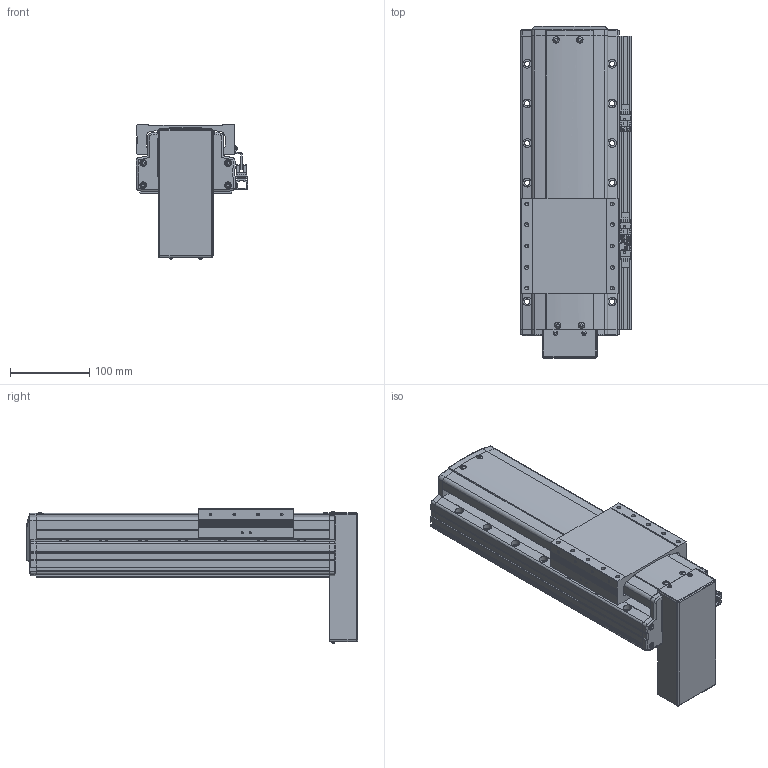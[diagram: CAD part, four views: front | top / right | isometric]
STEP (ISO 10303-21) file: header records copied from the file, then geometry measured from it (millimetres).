
FILE_DESCRIPTION(('STEP AP214'),'1');
FILE_NAME('Z:/Web/3D/PSA125/STP/PSA125-150 (3D)/PSA125ㅁㅁ-150PB+3SR.stp','2014-06-20T08:59:10',(' '),(' '),'Spatial InterOp 3D',' ',' ');
FILE_SCHEMA(('automotive_design'));
Length unit declared in the file: millimetre
Products named in the file (47): 스크루 : Round - M4.0 x 10.0; RRCV-PA120; SLIDE; BASE; FRCV-PA120-1(기준 뿔 제거); RR1500; 스크루 : Round - M4.0 x 6.0; 너트 : Square - M10.0 x 220.7419; 1; 2; 파트105; 스크루 : Round - M3.0 x 6.0; EE-SX674; SBK-SX674-352; M3.0 x 6.0; SRL-16x17-380L; SGD-PA95; 스크루 : Round - M3.0 x 8.0
Bounding box: 141 x 418.6 x 169.06 mm (x, y, z)
Volume: 3784169 mm3; surface area: 432393.3 mm2
Topology: 47 solids, 47 shells, 2551 faces, 6747 edges, 4334 vertices
Faces by surface type: plane 1485, cylinder 680, cone 250, sphere 72, torus 33, bspline 31
Entity records: 101642 total; most frequent: CARTESIAN_POINT 16358, DIRECTION 13592, ORIENTED_EDGE 13258, EDGE_CURVE 6629, AXIS2_PLACEMENT_3D 4560, LINE 4472, VECTOR 4472, VERTEX_POINT 4334
